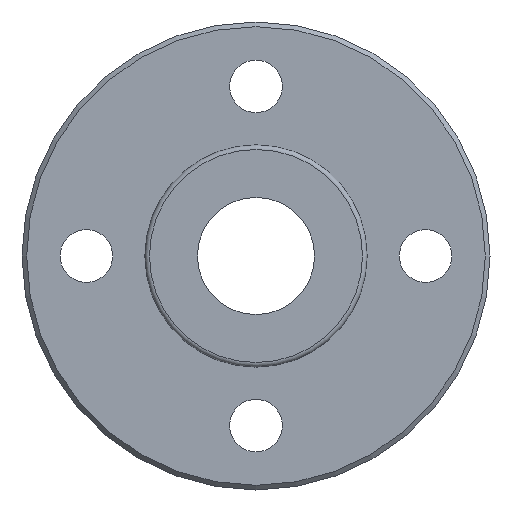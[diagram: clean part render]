
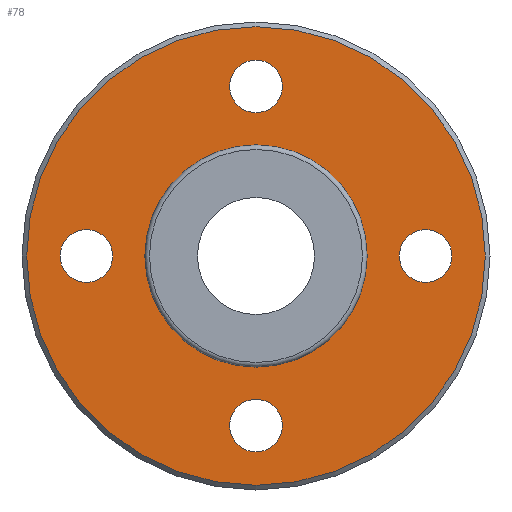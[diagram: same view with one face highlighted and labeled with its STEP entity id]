
A CAD part, left-side view. The second image highlights one B-rep face of the part: STEP entity #78.
In plain terms, the highlighted planar face has unit normal (-1, 0, 0).
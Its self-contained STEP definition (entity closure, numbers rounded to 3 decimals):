
#78=ADVANCED_FACE('',(#113,#114,#115,#116,#117,#118),#119,.T.);
#113=FACE_OUTER_BOUND('',#205,.T.);
#114=FACE_BOUND('',#206,.T.);
#115=FACE_BOUND('',#207,.T.);
#116=FACE_BOUND('',#208,.T.);
#117=FACE_BOUND('',#209,.T.);
#118=FACE_BOUND('',#210,.T.);
#119=PLANE('',#211);
#205=EDGE_LOOP('',(#303));
#206=EDGE_LOOP('',(#304));
#207=EDGE_LOOP('',(#305));
#208=EDGE_LOOP('',(#306));
#209=EDGE_LOOP('',(#307));
#210=EDGE_LOOP('',(#308));
#211=AXIS2_PLACEMENT_3D('',#309,#310,#311);
#303=ORIENTED_EDGE('',*,*,#441,.T.);
#304=ORIENTED_EDGE('',*,*,#442,.F.);
#305=ORIENTED_EDGE('',*,*,#443,.T.);
#306=ORIENTED_EDGE('',*,*,#444,.T.);
#307=ORIENTED_EDGE('',*,*,#445,.T.);
#308=ORIENTED_EDGE('',*,*,#446,.T.);
#309=CARTESIAN_POINT('',(-6.0,14.425,0.0));
#310=DIRECTION('',(-1.0,0.0,0.));
#311=DIRECTION('',(0.,0.0,1.0));
#441=EDGE_CURVE('',#478,#478,#479,.T.);
#442=EDGE_CURVE('',#480,#480,#481,.T.);
#443=EDGE_CURVE('',#482,#482,#483,.T.);
#444=EDGE_CURVE('',#484,#484,#485,.T.);
#445=EDGE_CURVE('',#486,#486,#487,.T.);
#446=EDGE_CURVE('',#488,#488,#489,.T.);
#478=VERTEX_POINT('',#542);
#479=CIRCLE('',#543,19.6);
#480=VERTEX_POINT('',#544);
#481=CIRCLE('',#545,9.25);
#482=VERTEX_POINT('',#546);
#483=CIRCLE('',#547,2.25);
#484=VERTEX_POINT('',#548);
#485=CIRCLE('',#549,2.25);
#486=VERTEX_POINT('',#550);
#487=CIRCLE('',#551,2.25);
#488=VERTEX_POINT('',#552);
#489=CIRCLE('',#553,2.25);
#542=CARTESIAN_POINT('',(-6.0,19.6,0.0));
#543=AXIS2_PLACEMENT_3D('',#611,#612,#613);
#544=CARTESIAN_POINT('',(-6.0,9.25,0.0));
#545=AXIS2_PLACEMENT_3D('',#614,#615,#616);
#546=CARTESIAN_POINT('',(-6.0,14.5,2.25));
#547=AXIS2_PLACEMENT_3D('',#617,#618,#619);
#548=CARTESIAN_POINT('',(-6.0,-14.5,2.25));
#549=AXIS2_PLACEMENT_3D('',#620,#621,#622);
#550=CARTESIAN_POINT('',(-6.0,0.0,16.75));
#551=AXIS2_PLACEMENT_3D('',#623,#624,#625);
#552=CARTESIAN_POINT('',(-6.,0.0,-12.25));
#553=AXIS2_PLACEMENT_3D('',#626,#627,#628);
#611=CARTESIAN_POINT('',(-6.0,0.0,0.0));
#612=DIRECTION('',(-1.0,0.0,0.));
#613=DIRECTION('',(0.0,1.0,0.0));
#614=CARTESIAN_POINT('',(-6.0,0.0,0.0));
#615=DIRECTION('',(-1.0,0.0,0.));
#616=DIRECTION('',(0.0,1.0,0.0));
#617=CARTESIAN_POINT('',(-6.0,14.5,0.0));
#618=DIRECTION('',(1.0,0.0,0.));
#619=DIRECTION('',(0.,0.0,-1.0));
#620=CARTESIAN_POINT('',(-6.0,-14.5,0.0));
#621=DIRECTION('',(1.0,0.0,0.));
#622=DIRECTION('',(0.,0.0,-1.0));
#623=CARTESIAN_POINT('',(-6.0,0.0,14.5));
#624=DIRECTION('',(1.0,0.0,0.));
#625=DIRECTION('',(0.,0.0,-1.0));
#626=CARTESIAN_POINT('',(-6.,0.0,-14.5));
#627=DIRECTION('',(1.0,0.0,0.));
#628=DIRECTION('',(0.,0.0,-1.0));
